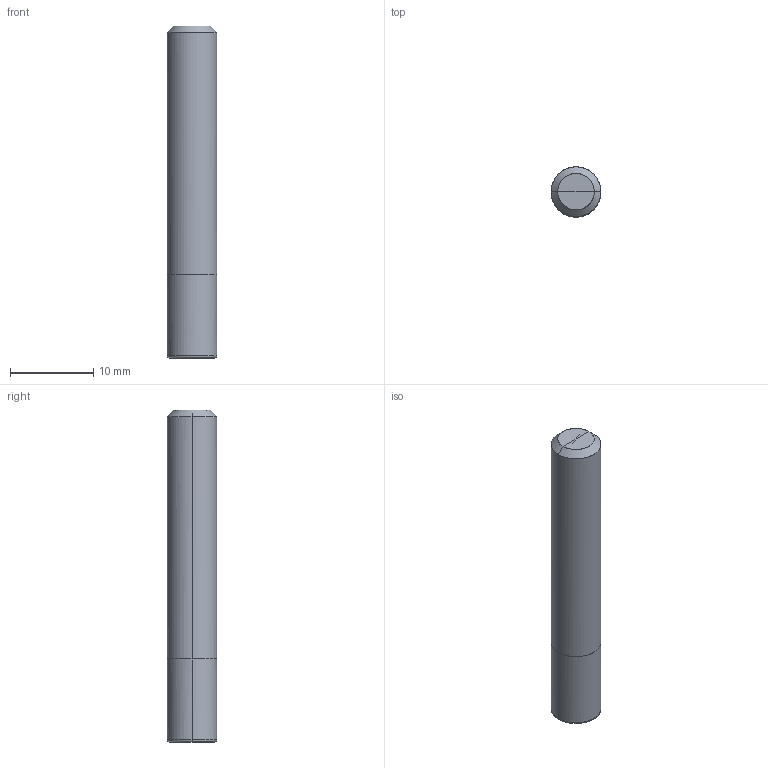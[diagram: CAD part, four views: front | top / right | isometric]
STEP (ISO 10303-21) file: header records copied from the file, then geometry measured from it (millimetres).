
FILE_DESCRIPTION(/* description */ (''),/* implementation_level */ '2;1');
FILE_NAME(/*name*/ '5031-6F-0.25R',/*time_stamp*/'2021-4-28T11:17:30',/*author*/ ('ISBE GmbH'),/*organization*/ ('ISBE GmbH'),/*preprocessor_version*/ 'STEP IO v1.0',/*originating_system*/ '',/*authorisation*/ '');
FILE_SCHEMA (('AUTOMOTIVE_DESIGN'));
Length unit declared in the file: millimetre
Products named in the file (1): Document
Bounding box: 6 x 5.99 x 40 mm (x, y, z)
Surface area: 856.6 mm2 (no closed solid volume)
Topology: 0 solids, 16 shells, 16 faces, 69 edges, 66 vertices
Faces by surface type: bspline 16
Entity records: 1256 total; most frequent: CARTESIAN_POINT 949, VERTEX_POINT 56, EDGE_CURVE 56, ORIENTED_EDGE 56, DIRECTION 16, EDGE_LOOP 16, FACE_OUTER_BOUND 16, ADVANCED_FACE 16
